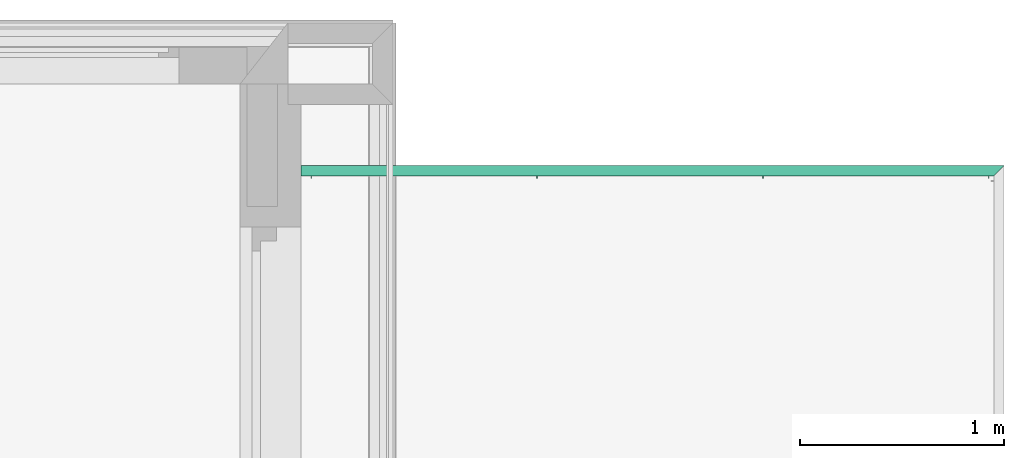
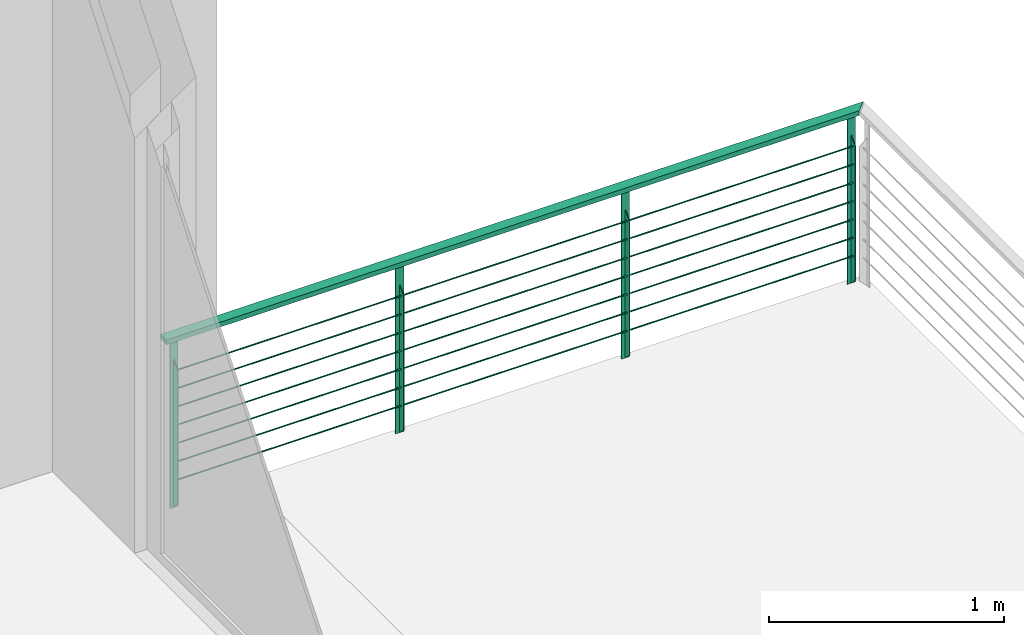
# One storey, part 25 of 26: 1 distribution element.
"""IFC2X3 building model written with IfcOpenShell, lengths in millimetres."""

from ifc_helpers import new_model, entity, si_unit, converted_unit, money_unit, direction, frame, origin_with_axes, place, context, subcontext, project, spatial, faceted_brep, material, type_object, element, save


model = new_model("IFC2X3")

# Units and contexts
model_context = context("Model", 3, precision=1e-05, world=origin_with_axes(), true_north=direction((0.0, 1.0)))
body_context = subcontext(model_context, "Body", "Model", "MODEL_VIEW")
ifc_project = project(units=[si_unit("LENGTHUNIT", "METRE", prefix="MILLI"), si_unit("AREAUNIT", "SQUARE_METRE"), si_unit("VOLUMEUNIT", "CUBIC_METRE"), converted_unit("PLANEANGLEUNIT", "DEGREE", entity("IfcPlaneAngleMeasure", 0.0174532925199), si_unit("PLANEANGLEUNIT", "RADIAN"), dimensions=[0, 0, 0, 0, 0, 0, 0]), si_unit("SOLIDANGLEUNIT", "STERADIAN"), money_unit("USD"), converted_unit("TIMEUNIT", "Year", entity("IfcTimeMeasure", 31556926.0), si_unit("TIMEUNIT", "SECOND"), dimensions=[0, 0, 0, 0, 0, 0, 0]), si_unit("MASSUNIT", "GRAM"), si_unit("THERMODYNAMICTEMPERATUREUNIT", "DEGREE_CELSIUS"), si_unit("LUMINOUSINTENSITYUNIT", "LUMEN")], contexts=[model_context])

# Site, building, storey
site_placement = place(None, origin_with_axes())
site = spatial("IfcSite", under=ifc_project, at=site_placement, Name="Grove Residential", CompositionType="ELEMENT")
building_placement = place(site_placement, origin_with_axes())
building = spatial("IfcBuilding", under=site, at=building_placement, Name="Building", CompositionType="ELEMENT")
storey_placement = place(building_placement, origin_with_axes())
storey = spatial("IfcBuildingStorey", under=building, at=storey_placement, Name="Ground Floor", CompositionType="ELEMENT", Elevation=0.0)

# Distribution element
ifc_material = material(Name="Background")
distribution_element_type = type_object("IfcDistributionElementType", Name="Rail Wired 02 20")
distribution_element_placement = place(storey_placement, frame((13725.0, 17825.0, -50.0), z_axis=(0.0, 0.0, 1.0), x_axis=(1.0, 0.0, 0.0)))
element("IfcDistributionElement", 1, at=distribution_element_placement, inside=storey, type_object=distribution_element_type, material=ifc_material, Name="FU - 001", context=body_context, shape_type="Brep", body=[
    faceted_brep([(25.0, 25.0, 875.0), (25.0, 25.0, 900.0), (25.0, 25.0, 900.0), (25.0, 25.0, 875.0), (-3425.0, 25.0, 875.0), (-3425.0, 25.0, 900.0), (-3425.0, -25.0, 900.0), (-25.0, -25.0, 900.0), (-25.0, -25.0, 875.0), (-3425.0, -25.0, 875.0)], [[[0, 1, 2, 3]], [[4, 5, 1, 0]], [[1, 5, 6, 7, 2]], [[3, 2, 7, 8]], [[0, 3, 8, 9, 4]], [[9, 6, 5, 4]], [[8, 7, 6, 9]]]),
    faceted_brep([(-30.0, -2.0, 0.0), (-30.0, -2.0, 871.0), (-70.0, -2.0, 871.0), (-70.0, -2.0, 0.0), (-30.0, 2.0, 0.0), (-30.0, 2.0, 871.0), (-70.0, 2.0, 871.0), (-70.0, 2.0, 0.0)], [[[0, 1, 2, 3]], [[4, 5, 1, 0]], [[1, 5, 6, 2]], [[3, 2, 6, 7]], [[0, 3, 7, 4]], [[7, 6, 5, 4]]]),
    faceted_brep([(-52.0, -38.0, 36.0), (-48.0, -38.0, 36.0), (-48.0, -38.0, 731.0), (-52.0, -38.0, 731.0), (-52.0, -2.0, 0.0), (-48.0, -2.0, 0.0), (-48.0, -2.0, 767.0), (-52.0, -2.0, 767.0)], [[[0, 1, 2, 3]], [[4, 5, 1, 0]], [[1, 5, 6, 2]], [[3, 2, 6, 7]], [[0, 3, 7, 4]], [[7, 6, 5, 4]]]),
    faceted_brep([(-1138.33333333, -2.0, 0.0), (-1138.33333333, -2.0, 871.0), (-1178.33333333, -2.0, 871.0), (-1178.33333333, -2.0, 0.0), (-1138.33333333, 2.0, 0.0), (-1138.33333333, 2.0, 871.0), (-1178.33333333, 2.0, 871.0), (-1178.33333333, 2.0, 0.0)], [[[0, 1, 2, 3]], [[4, 5, 1, 0]], [[1, 5, 6, 2]], [[3, 2, 6, 7]], [[0, 3, 7, 4]], [[7, 6, 5, 4]]]),
    faceted_brep([(-1160.33333333, -38.0, 36.0), (-1156.33333333, -38.0, 36.0), (-1156.33333333, -38.0, 731.0), (-1160.33333333, -38.0, 731.0), (-1160.33333333, -2.0, 0.0), (-1156.33333333, -2.0, 0.0), (-1156.33333333, -2.0, 767.0), (-1160.33333333, -2.0, 767.0)], [[[0, 1, 2, 3]], [[4, 5, 1, 0]], [[1, 5, 6, 2]], [[3, 2, 6, 7]], [[0, 3, 7, 4]], [[7, 6, 5, 4]]]),
    faceted_brep([(-2246.66666667, -2.0, 0.0), (-2246.66666667, -2.0, 871.0), (-2286.66666667, -2.0, 871.0), (-2286.66666667, -2.0, 0.0), (-2246.66666667, 2.0, 0.0), (-2246.66666667, 2.0, 871.0), (-2286.66666667, 2.0, 871.0), (-2286.66666667, 2.0, 0.0)], [[[0, 1, 2, 3]], [[4, 5, 1, 0]], [[1, 5, 6, 2]], [[3, 2, 6, 7]], [[0, 3, 7, 4]], [[7, 6, 5, 4]]]),
    faceted_brep([(-2268.66666667, -38.0, 36.0), (-2264.66666667, -38.0, 36.0), (-2264.66666667, -38.0, 731.0), (-2268.66666667, -38.0, 731.0), (-2268.66666667, -2.0, 0.0), (-2264.66666667, -2.0, 0.0), (-2264.66666667, -2.0, 767.0), (-2268.66666667, -2.0, 767.0)], [[[0, 1, 2, 3]], [[4, 5, 1, 0]], [[1, 5, 6, 2]], [[3, 2, 6, 7]], [[0, 3, 7, 4]], [[7, 6, 5, 4]]]),
    faceted_brep([(-3355.0, -2.0, 0.0), (-3355.0, -2.0, 871.0), (-3395.0, -2.0, 871.0), (-3395.0, -2.0, 0.0), (-3355.0, 2.0, 0.0), (-3355.0, 2.0, 871.0), (-3395.0, 2.0, 871.0), (-3395.0, 2.0, 0.0)], [[[0, 1, 2, 3]], [[4, 5, 1, 0]], [[1, 5, 6, 2]], [[3, 2, 6, 7]], [[0, 3, 7, 4]], [[7, 6, 5, 4]]]),
    faceted_brep([(-3377.0, -38.0, 36.0), (-3373.0, -38.0, 36.0), (-3373.0, -38.0, 731.0), (-3377.0, -38.0, 731.0), (-3377.0, -2.0, 0.0), (-3373.0, -2.0, 0.0), (-3373.0, -2.0, 767.0), (-3377.0, -2.0, 767.0)], [[[0, 1, 2, 3]], [[4, 5, 1, 0]], [[1, 5, 6, 2]], [[3, 2, 6, 7]], [[0, 3, 7, 4]], [[7, 6, 5, 4]]]),
    faceted_brep([(-20.0, -15.0, 871.0), (-20.0, -15.0, 875.0), (-80.0, -15.0, 875.0), (-80.0, -15.0, 871.0), (-20.0, 15.0, 871.0), (-20.0, 15.0, 875.0), (-80.0, 15.0, 875.0), (-80.0, 15.0, 871.0)], [[[0, 1, 2, 3]], [[4, 5, 1, 0]], [[1, 5, 6, 2]], [[3, 2, 6, 7]], [[0, 3, 7, 4]], [[7, 6, 5, 4]]]),
    faceted_brep([(-1128.33333333, -15.0, 871.0), (-1128.33333333, -15.0, 875.0), (-1188.33333333, -15.0, 875.0), (-1188.33333333, -15.0, 871.0), (-1128.33333333, 15.0, 871.0), (-1128.33333333, 15.0, 875.0), (-1188.33333333, 15.0, 875.0), (-1188.33333333, 15.0, 871.0)], [[[0, 1, 2, 3]], [[4, 5, 1, 0]], [[1, 5, 6, 2]], [[3, 2, 6, 7]], [[0, 3, 7, 4]], [[7, 6, 5, 4]]]),
    faceted_brep([(-2236.66666667, -15.0, 871.0), (-2236.66666667, -15.0, 875.0), (-2296.66666667, -15.0, 875.0), (-2296.66666667, -15.0, 871.0), (-2236.66666667, 15.0, 871.0), (-2236.66666667, 15.0, 875.0), (-2296.66666667, 15.0, 875.0), (-2296.66666667, 15.0, 871.0)], [[[0, 1, 2, 3]], [[4, 5, 1, 0]], [[1, 5, 6, 2]], [[3, 2, 6, 7]], [[0, 3, 7, 4]], [[7, 6, 5, 4]]]),
    faceted_brep([(-3345.0, -15.0, 871.0), (-3345.0, -15.0, 875.0), (-3405.0, -15.0, 875.0), (-3405.0, -15.0, 871.0), (-3345.0, 15.0, 871.0), (-3345.0, 15.0, 875.0), (-3405.0, 15.0, 875.0), (-3405.0, 15.0, 871.0)], [[[0, 1, 2, 3]], [[4, 5, 1, 0]], [[1, 5, 6, 2]], [[3, 2, 6, 7]], [[0, 3, 7, 4]], [[7, 6, 5, 4]]]),
    faceted_brep([(-3355.0, -22.0, 155.0), (-3373.0, -22.0, 155.0), (-3373.0, -22.5, 155.0), (-2268.66666667, -22.5, 155.0), (-2268.66666667, -22.0, 155.0), (-2286.66666667, -22.0, 155.0), (-2286.66666667, -18.0, 155.0), (-2246.66666667, -18.0, 155.0), (-2246.66666667, -22.0, 155.0), (-2264.66666667, -22.0, 155.0), (-2264.66666667, -22.5, 155.0), (-1160.33333333, -22.5, 155.0), (-1160.33333333, -22.0, 155.0), (-1178.33333333, -22.0, 155.0), (-1178.33333333, -18.0, 155.0), (-1138.33333333, -18.0, 155.0), (-1138.33333333, -22.0, 155.0), (-1156.33333333, -22.0, 155.0), (-1156.33333333, -22.5, 155.0), (-52.0, -22.5, 155.0), (-52.0, -22.0, 155.0), (-70.0, -22.0, 155.0), (-70.0, -18.0, 155.0), (-50.0, -18.0, 155.0), (-50.0, -17.5, 155.0), (-3375.0, -17.5, 155.0), (-3375.0, -18.0, 155.0), (-3355.0, -18.0, 155.0), (-3355.0, -22.0, 150.0), (-3373.0, -22.0, 150.0), (-3373.0, -22.5, 150.0), (-2268.66666667, -22.5, 150.0), (-2268.66666667, -22.0, 150.0), (-2286.66666667, -22.0, 150.0), (-2286.66666667, -18.0, 150.0), (-2246.66666667, -18.0, 150.0), (-2246.66666667, -22.0, 150.0), (-2264.66666667, -22.0, 150.0), (-2264.66666667, -22.5, 150.0), (-1160.33333333, -22.5, 150.0), (-1160.33333333, -22.0, 150.0), (-1178.33333333, -22.0, 150.0), (-1178.33333333, -18.0, 150.0), (-1138.33333333, -18.0, 150.0), (-1138.33333333, -22.0, 150.0), (-1156.33333333, -22.0, 150.0), (-1156.33333333, -22.5, 150.0), (-52.0, -22.5, 150.0), (-52.0, -22.0, 150.0), (-70.0, -22.0, 150.0), (-70.0, -18.0, 150.0), (-50.0, -18.0, 150.0), (-50.0, -17.5, 150.0), (-3375.0, -17.5, 150.0), (-3375.0, -18.0, 150.0), (-3355.0, -18.0, 150.0)], [[[0, 1, 2, 3, 4, 5, 6, 7, 8, 9, 10, 11, 12, 13, 14, 15, 16, 17, 18, 19, 20, 21, 22, 23, 24, 25, 26, 27]], [[0, 28, 29, 1]], [[29, 30, 2, 1]], [[3, 2, 30, 31]], [[3, 31, 32, 4]], [[32, 33, 5, 4]], [[5, 33, 34, 6]], [[6, 34, 35, 7]], [[7, 35, 36, 8]], [[9, 8, 36, 37]], [[37, 38, 10, 9]], [[38, 39, 11, 10]], [[11, 39, 40, 12]], [[40, 41, 13, 12]], [[13, 41, 42, 14]], [[14, 42, 43, 15]], [[15, 43, 44, 16]], [[17, 16, 44, 45]], [[45, 46, 18, 17]], [[46, 47, 19, 18]], [[19, 47, 48, 20]], [[48, 49, 21, 20]], [[21, 49, 50, 22]], [[22, 50, 51, 23]], [[51, 52, 24, 23]], [[25, 24, 52, 53]], [[26, 25, 53, 54]], [[54, 55, 27, 26]], [[27, 55, 28, 0]], [[28, 55, 54, 53, 52, 51, 50, 49, 48, 47, 46, 45, 44, 43, 42, 41, 40, 39, 38, 37, 36, 35, 34, 33, 32, 31, 30, 29]]]),
    faceted_brep([(-3355.0, -22.0, 250.0), (-3373.0, -22.0, 250.0), (-3373.0, -22.5, 250.0), (-2268.66666667, -22.5, 250.0), (-2268.66666667, -22.0, 250.0), (-2286.66666667, -22.0, 250.0), (-2286.66666667, -18.0, 250.0), (-2246.66666667, -18.0, 250.0), (-2246.66666667, -22.0, 250.0), (-2264.66666667, -22.0, 250.0), (-2264.66666667, -22.5, 250.0), (-1160.33333333, -22.5, 250.0), (-1160.33333333, -22.0, 250.0), (-1178.33333333, -22.0, 250.0), (-1178.33333333, -18.0, 250.0), (-1138.33333333, -18.0, 250.0), (-1138.33333333, -22.0, 250.0), (-1156.33333333, -22.0, 250.0), (-1156.33333333, -22.5, 250.0), (-52.0, -22.5, 250.0), (-52.0, -22.0, 250.0), (-70.0, -22.0, 250.0), (-70.0, -18.0, 250.0), (-50.0, -18.0, 250.0), (-50.0, -17.5, 250.0), (-3375.0, -17.5, 250.0), (-3375.0, -18.0, 250.0), (-3355.0, -18.0, 250.0), (-3355.0, -22.0, 245.0), (-3373.0, -22.0, 245.0), (-3373.0, -22.5, 245.0), (-2268.66666667, -22.5, 245.0), (-2268.66666667, -22.0, 245.0), (-2286.66666667, -22.0, 245.0), (-2286.66666667, -18.0, 245.0), (-2246.66666667, -18.0, 245.0), (-2246.66666667, -22.0, 245.0), (-2264.66666667, -22.0, 245.0), (-2264.66666667, -22.5, 245.0), (-1160.33333333, -22.5, 245.0), (-1160.33333333, -22.0, 245.0), (-1178.33333333, -22.0, 245.0), (-1178.33333333, -18.0, 245.0), (-1138.33333333, -18.0, 245.0), (-1138.33333333, -22.0, 245.0), (-1156.33333333, -22.0, 245.0), (-1156.33333333, -22.5, 245.0), (-52.0, -22.5, 245.0), (-52.0, -22.0, 245.0), (-70.0, -22.0, 245.0), (-70.0, -18.0, 245.0), (-50.0, -18.0, 245.0), (-50.0, -17.5, 245.0), (-3375.0, -17.5, 245.0), (-3375.0, -18.0, 245.0), (-3355.0, -18.0, 245.0)], [[[0, 1, 2, 3, 4, 5, 6, 7, 8, 9, 10, 11, 12, 13, 14, 15, 16, 17, 18, 19, 20, 21, 22, 23, 24, 25, 26, 27]], [[0, 28, 29, 1]], [[29, 30, 2, 1]], [[3, 2, 30, 31]], [[3, 31, 32, 4]], [[32, 33, 5, 4]], [[5, 33, 34, 6]], [[6, 34, 35, 7]], [[7, 35, 36, 8]], [[9, 8, 36, 37]], [[37, 38, 10, 9]], [[38, 39, 11, 10]], [[11, 39, 40, 12]], [[40, 41, 13, 12]], [[13, 41, 42, 14]], [[14, 42, 43, 15]], [[15, 43, 44, 16]], [[17, 16, 44, 45]], [[45, 46, 18, 17]], [[46, 47, 19, 18]], [[19, 47, 48, 20]], [[48, 49, 21, 20]], [[21, 49, 50, 22]], [[22, 50, 51, 23]], [[51, 52, 24, 23]], [[25, 24, 52, 53]], [[26, 25, 53, 54]], [[54, 55, 27, 26]], [[27, 55, 28, 0]], [[28, 55, 54, 53, 52, 51, 50, 49, 48, 47, 46, 45, 44, 43, 42, 41, 40, 39, 38, 37, 36, 35, 34, 33, 32, 31, 30, 29]]]),
    faceted_brep([(-3355.0, -22.0, 345.0), (-3373.0, -22.0, 345.0), (-3373.0, -22.5, 345.0), (-2268.66666667, -22.5, 345.0), (-2268.66666667, -22.0, 345.0), (-2286.66666667, -22.0, 345.0), (-2286.66666667, -18.0, 345.0), (-2246.66666667, -18.0, 345.0), (-2246.66666667, -22.0, 345.0), (-2264.66666667, -22.0, 345.0), (-2264.66666667, -22.5, 345.0), (-1160.33333333, -22.5, 345.0), (-1160.33333333, -22.0, 345.0), (-1178.33333333, -22.0, 345.0), (-1178.33333333, -18.0, 345.0), (-1138.33333333, -18.0, 345.0), (-1138.33333333, -22.0, 345.0), (-1156.33333333, -22.0, 345.0), (-1156.33333333, -22.5, 345.0), (-52.0, -22.5, 345.0), (-52.0, -22.0, 345.0), (-70.0, -22.0, 345.0), (-70.0, -18.0, 345.0), (-50.0, -18.0, 345.0), (-50.0, -17.5, 345.0), (-3375.0, -17.5, 345.0), (-3375.0, -18.0, 345.0), (-3355.0, -18.0, 345.0), (-3355.0, -22.0, 340.0), (-3373.0, -22.0, 340.0), (-3373.0, -22.5, 340.0), (-2268.66666667, -22.5, 340.0), (-2268.66666667, -22.0, 340.0), (-2286.66666667, -22.0, 340.0), (-2286.66666667, -18.0, 340.0), (-2246.66666667, -18.0, 340.0), (-2246.66666667, -22.0, 340.0), (-2264.66666667, -22.0, 340.0), (-2264.66666667, -22.5, 340.0), (-1160.33333333, -22.5, 340.0), (-1160.33333333, -22.0, 340.0), (-1178.33333333, -22.0, 340.0), (-1178.33333333, -18.0, 340.0), (-1138.33333333, -18.0, 340.0), (-1138.33333333, -22.0, 340.0), (-1156.33333333, -22.0, 340.0), (-1156.33333333, -22.5, 340.0), (-52.0, -22.5, 340.0), (-52.0, -22.0, 340.0), (-70.0, -22.0, 340.0), (-70.0, -18.0, 340.0), (-50.0, -18.0, 340.0), (-50.0, -17.5, 340.0), (-3375.0, -17.5, 340.0), (-3375.0, -18.0, 340.0), (-3355.0, -18.0, 340.0)], [[[0, 1, 2, 3, 4, 5, 6, 7, 8, 9, 10, 11, 12, 13, 14, 15, 16, 17, 18, 19, 20, 21, 22, 23, 24, 25, 26, 27]], [[0, 28, 29, 1]], [[29, 30, 2, 1]], [[3, 2, 30, 31]], [[3, 31, 32, 4]], [[32, 33, 5, 4]], [[5, 33, 34, 6]], [[6, 34, 35, 7]], [[7, 35, 36, 8]], [[9, 8, 36, 37]], [[37, 38, 10, 9]], [[38, 39, 11, 10]], [[11, 39, 40, 12]], [[40, 41, 13, 12]], [[13, 41, 42, 14]], [[14, 42, 43, 15]], [[15, 43, 44, 16]], [[17, 16, 44, 45]], [[45, 46, 18, 17]], [[46, 47, 19, 18]], [[19, 47, 48, 20]], [[48, 49, 21, 20]], [[21, 49, 50, 22]], [[22, 50, 51, 23]], [[51, 52, 24, 23]], [[25, 24, 52, 53]], [[26, 25, 53, 54]], [[54, 55, 27, 26]], [[27, 55, 28, 0]], [[28, 55, 54, 53, 52, 51, 50, 49, 48, 47, 46, 45, 44, 43, 42, 41, 40, 39, 38, 37, 36, 35, 34, 33, 32, 31, 30, 29]]]),
    faceted_brep([(-3355.0, -22.0, 440.0), (-3373.0, -22.0, 440.0), (-3373.0, -22.5, 440.0), (-2268.66666667, -22.5, 440.0), (-2268.66666667, -22.0, 440.0), (-2286.66666667, -22.0, 440.0), (-2286.66666667, -18.0, 440.0), (-2246.66666667, -18.0, 440.0), (-2246.66666667, -22.0, 440.0), (-2264.66666667, -22.0, 440.0), (-2264.66666667, -22.5, 440.0), (-1160.33333333, -22.5, 440.0), (-1160.33333333, -22.0, 440.0), (-1178.33333333, -22.0, 440.0), (-1178.33333333, -18.0, 440.0), (-1138.33333333, -18.0, 440.0), (-1138.33333333, -22.0, 440.0), (-1156.33333333, -22.0, 440.0), (-1156.33333333, -22.5, 440.0), (-52.0, -22.5, 440.0), (-52.0, -22.0, 440.0), (-70.0, -22.0, 440.0), (-70.0, -18.0, 440.0), (-50.0, -18.0, 440.0), (-50.0, -17.5, 440.0), (-3375.0, -17.5, 440.0), (-3375.0, -18.0, 440.0), (-3355.0, -18.0, 440.0), (-3355.0, -22.0, 435.0), (-3373.0, -22.0, 435.0), (-3373.0, -22.5, 435.0), (-2268.66666667, -22.5, 435.0), (-2268.66666667, -22.0, 435.0), (-2286.66666667, -22.0, 435.0), (-2286.66666667, -18.0, 435.0), (-2246.66666667, -18.0, 435.0), (-2246.66666667, -22.0, 435.0), (-2264.66666667, -22.0, 435.0), (-2264.66666667, -22.5, 435.0), (-1160.33333333, -22.5, 435.0), (-1160.33333333, -22.0, 435.0), (-1178.33333333, -22.0, 435.0), (-1178.33333333, -18.0, 435.0), (-1138.33333333, -18.0, 435.0), (-1138.33333333, -22.0, 435.0), (-1156.33333333, -22.0, 435.0), (-1156.33333333, -22.5, 435.0), (-52.0, -22.5, 435.0), (-52.0, -22.0, 435.0), (-70.0, -22.0, 435.0), (-70.0, -18.0, 435.0), (-50.0, -18.0, 435.0), (-50.0, -17.5, 435.0), (-3375.0, -17.5, 435.0), (-3375.0, -18.0, 435.0), (-3355.0, -18.0, 435.0)], [[[0, 1, 2, 3, 4, 5, 6, 7, 8, 9, 10, 11, 12, 13, 14, 15, 16, 17, 18, 19, 20, 21, 22, 23, 24, 25, 26, 27]], [[0, 28, 29, 1]], [[29, 30, 2, 1]], [[3, 2, 30, 31]], [[3, 31, 32, 4]], [[32, 33, 5, 4]], [[5, 33, 34, 6]], [[6, 34, 35, 7]], [[7, 35, 36, 8]], [[9, 8, 36, 37]], [[37, 38, 10, 9]], [[38, 39, 11, 10]], [[11, 39, 40, 12]], [[40, 41, 13, 12]], [[13, 41, 42, 14]], [[14, 42, 43, 15]], [[15, 43, 44, 16]], [[17, 16, 44, 45]], [[45, 46, 18, 17]], [[46, 47, 19, 18]], [[19, 47, 48, 20]], [[48, 49, 21, 20]], [[21, 49, 50, 22]], [[22, 50, 51, 23]], [[51, 52, 24, 23]], [[25, 24, 52, 53]], [[26, 25, 53, 54]], [[54, 55, 27, 26]], [[27, 55, 28, 0]], [[28, 55, 54, 53, 52, 51, 50, 49, 48, 47, 46, 45, 44, 43, 42, 41, 40, 39, 38, 37, 36, 35, 34, 33, 32, 31, 30, 29]]]),
    faceted_brep([(-3355.0, -22.0, 535.0), (-3373.0, -22.0, 535.0), (-3373.0, -22.5, 535.0), (-2268.66666667, -22.5, 535.0), (-2268.66666667, -22.0, 535.0), (-2286.66666667, -22.0, 535.0), (-2286.66666667, -18.0, 535.0), (-2246.66666667, -18.0, 535.0), (-2246.66666667, -22.0, 535.0), (-2264.66666667, -22.0, 535.0), (-2264.66666667, -22.5, 535.0), (-1160.33333333, -22.5, 535.0), (-1160.33333333, -22.0, 535.0), (-1178.33333333, -22.0, 535.0), (-1178.33333333, -18.0, 535.0), (-1138.33333333, -18.0, 535.0), (-1138.33333333, -22.0, 535.0), (-1156.33333333, -22.0, 535.0), (-1156.33333333, -22.5, 535.0), (-52.0, -22.5, 535.0), (-52.0, -22.0, 535.0), (-70.0, -22.0, 535.0), (-70.0, -18.0, 535.0), (-50.0, -18.0, 535.0), (-50.0, -17.5, 535.0), (-3375.0, -17.5, 535.0), (-3375.0, -18.0, 535.0), (-3355.0, -18.0, 535.0), (-3355.0, -22.0, 530.0), (-3373.0, -22.0, 530.0), (-3373.0, -22.5, 530.0), (-2268.66666667, -22.5, 530.0), (-2268.66666667, -22.0, 530.0), (-2286.66666667, -22.0, 530.0), (-2286.66666667, -18.0, 530.0), (-2246.66666667, -18.0, 530.0), (-2246.66666667, -22.0, 530.0), (-2264.66666667, -22.0, 530.0), (-2264.66666667, -22.5, 530.0), (-1160.33333333, -22.5, 530.0), (-1160.33333333, -22.0, 530.0), (-1178.33333333, -22.0, 530.0), (-1178.33333333, -18.0, 530.0), (-1138.33333333, -18.0, 530.0), (-1138.33333333, -22.0, 530.0), (-1156.33333333, -22.0, 530.0), (-1156.33333333, -22.5, 530.0), (-52.0, -22.5, 530.0), (-52.0, -22.0, 530.0), (-70.0, -22.0, 530.0), (-70.0, -18.0, 530.0), (-50.0, -18.0, 530.0), (-50.0, -17.5, 530.0), (-3375.0, -17.5, 530.0), (-3375.0, -18.0, 530.0), (-3355.0, -18.0, 530.0)], [[[0, 1, 2, 3, 4, 5, 6, 7, 8, 9, 10, 11, 12, 13, 14, 15, 16, 17, 18, 19, 20, 21, 22, 23, 24, 25, 26, 27]], [[0, 28, 29, 1]], [[29, 30, 2, 1]], [[3, 2, 30, 31]], [[3, 31, 32, 4]], [[32, 33, 5, 4]], [[5, 33, 34, 6]], [[6, 34, 35, 7]], [[7, 35, 36, 8]], [[9, 8, 36, 37]], [[37, 38, 10, 9]], [[38, 39, 11, 10]], [[11, 39, 40, 12]], [[40, 41, 13, 12]], [[13, 41, 42, 14]], [[14, 42, 43, 15]], [[15, 43, 44, 16]], [[17, 16, 44, 45]], [[45, 46, 18, 17]], [[46, 47, 19, 18]], [[19, 47, 48, 20]], [[48, 49, 21, 20]], [[21, 49, 50, 22]], [[22, 50, 51, 23]], [[51, 52, 24, 23]], [[25, 24, 52, 53]], [[26, 25, 53, 54]], [[54, 55, 27, 26]], [[27, 55, 28, 0]], [[28, 55, 54, 53, 52, 51, 50, 49, 48, 47, 46, 45, 44, 43, 42, 41, 40, 39, 38, 37, 36, 35, 34, 33, 32, 31, 30, 29]]]),
    faceted_brep([(-3355.0, -22.0, 630.0), (-3373.0, -22.0, 630.0), (-3373.0, -22.5, 630.0), (-2268.66666667, -22.5, 630.0), (-2268.66666667, -22.0, 630.0), (-2286.66666667, -22.0, 630.0), (-2286.66666667, -18.0, 630.0), (-2246.66666667, -18.0, 630.0), (-2246.66666667, -22.0, 630.0), (-2264.66666667, -22.0, 630.0), (-2264.66666667, -22.5, 630.0), (-1160.33333333, -22.5, 630.0), (-1160.33333333, -22.0, 630.0), (-1178.33333333, -22.0, 630.0), (-1178.33333333, -18.0, 630.0), (-1138.33333333, -18.0, 630.0), (-1138.33333333, -22.0, 630.0), (-1156.33333333, -22.0, 630.0), (-1156.33333333, -22.5, 630.0), (-52.0, -22.5, 630.0), (-52.0, -22.0, 630.0), (-70.0, -22.0, 630.0), (-70.0, -18.0, 630.0), (-50.0, -18.0, 630.0), (-50.0, -17.5, 630.0), (-3375.0, -17.5, 630.0), (-3375.0, -18.0, 630.0), (-3355.0, -18.0, 630.0), (-3355.0, -22.0, 625.0), (-3373.0, -22.0, 625.0), (-3373.0, -22.5, 625.0), (-2268.66666667, -22.5, 625.0), (-2268.66666667, -22.0, 625.0), (-2286.66666667, -22.0, 625.0), (-2286.66666667, -18.0, 625.0), (-2246.66666667, -18.0, 625.0), (-2246.66666667, -22.0, 625.0), (-2264.66666667, -22.0, 625.0), (-2264.66666667, -22.5, 625.0), (-1160.33333333, -22.5, 625.0), (-1160.33333333, -22.0, 625.0), (-1178.33333333, -22.0, 625.0), (-1178.33333333, -18.0, 625.0), (-1138.33333333, -18.0, 625.0), (-1138.33333333, -22.0, 625.0), (-1156.33333333, -22.0, 625.0), (-1156.33333333, -22.5, 625.0), (-52.0, -22.5, 625.0), (-52.0, -22.0, 625.0), (-70.0, -22.0, 625.0), (-70.0, -18.0, 625.0), (-50.0, -18.0, 625.0), (-50.0, -17.5, 625.0), (-3375.0, -17.5, 625.0), (-3375.0, -18.0, 625.0), (-3355.0, -18.0, 625.0)], [[[0, 1, 2, 3, 4, 5, 6, 7, 8, 9, 10, 11, 12, 13, 14, 15, 16, 17, 18, 19, 20, 21, 22, 23, 24, 25, 26, 27]], [[0, 28, 29, 1]], [[29, 30, 2, 1]], [[3, 2, 30, 31]], [[3, 31, 32, 4]], [[32, 33, 5, 4]], [[5, 33, 34, 6]], [[6, 34, 35, 7]], [[7, 35, 36, 8]], [[9, 8, 36, 37]], [[37, 38, 10, 9]], [[38, 39, 11, 10]], [[11, 39, 40, 12]], [[40, 41, 13, 12]], [[13, 41, 42, 14]], [[14, 42, 43, 15]], [[15, 43, 44, 16]], [[17, 16, 44, 45]], [[45, 46, 18, 17]], [[46, 47, 19, 18]], [[19, 47, 48, 20]], [[48, 49, 21, 20]], [[21, 49, 50, 22]], [[22, 50, 51, 23]], [[51, 52, 24, 23]], [[25, 24, 52, 53]], [[26, 25, 53, 54]], [[54, 55, 27, 26]], [[27, 55, 28, 0]], [[28, 55, 54, 53, 52, 51, 50, 49, 48, 47, 46, 45, 44, 43, 42, 41, 40, 39, 38, 37, 36, 35, 34, 33, 32, 31, 30, 29]]]),
    faceted_brep([(-3355.0, -22.0, 725.0), (-3373.0, -22.0, 725.0), (-3373.0, -22.5, 725.0), (-2268.66666667, -22.5, 725.0), (-2268.66666667, -22.0, 725.0), (-2286.66666667, -22.0, 725.0), (-2286.66666667, -18.0, 725.0), (-2246.66666667, -18.0, 725.0), (-2246.66666667, -22.0, 725.0), (-2264.66666667, -22.0, 725.0), (-2264.66666667, -22.5, 725.0), (-1160.33333333, -22.5, 725.0), (-1160.33333333, -22.0, 725.0), (-1178.33333333, -22.0, 725.0), (-1178.33333333, -18.0, 725.0), (-1138.33333333, -18.0, 725.0), (-1138.33333333, -22.0, 725.0), (-1156.33333333, -22.0, 725.0), (-1156.33333333, -22.5, 725.0), (-52.0, -22.5, 725.0), (-52.0, -22.0, 725.0), (-70.0, -22.0, 725.0), (-70.0, -18.0, 725.0), (-50.0, -18.0, 725.0), (-50.0, -17.5, 725.0), (-3375.0, -17.5, 725.0), (-3375.0, -18.0, 725.0), (-3355.0, -18.0, 725.0), (-3355.0, -22.0, 720.0), (-3373.0, -22.0, 720.0), (-3373.0, -22.5, 720.0), (-2268.66666667, -22.5, 720.0), (-2268.66666667, -22.0, 720.0), (-2286.66666667, -22.0, 720.0), (-2286.66666667, -18.0, 720.0), (-2246.66666667, -18.0, 720.0), (-2246.66666667, -22.0, 720.0), (-2264.66666667, -22.0, 720.0), (-2264.66666667, -22.5, 720.0), (-1160.33333333, -22.5, 720.0), (-1160.33333333, -22.0, 720.0), (-1178.33333333, -22.0, 720.0), (-1178.33333333, -18.0, 720.0), (-1138.33333333, -18.0, 720.0), (-1138.33333333, -22.0, 720.0), (-1156.33333333, -22.0, 720.0), (-1156.33333333, -22.5, 720.0), (-52.0, -22.5, 720.0), (-52.0, -22.0, 720.0), (-70.0, -22.0, 720.0), (-70.0, -18.0, 720.0), (-50.0, -18.0, 720.0), (-50.0, -17.5, 720.0), (-3375.0, -17.5, 720.0), (-3375.0, -18.0, 720.0), (-3355.0, -18.0, 720.0)], [[[0, 1, 2, 3, 4, 5, 6, 7, 8, 9, 10, 11, 12, 13, 14, 15, 16, 17, 18, 19, 20, 21, 22, 23, 24, 25, 26, 27]], [[0, 28, 29, 1]], [[29, 30, 2, 1]], [[3, 2, 30, 31]], [[3, 31, 32, 4]], [[32, 33, 5, 4]], [[5, 33, 34, 6]], [[6, 34, 35, 7]], [[7, 35, 36, 8]], [[9, 8, 36, 37]], [[37, 38, 10, 9]], [[38, 39, 11, 10]], [[11, 39, 40, 12]], [[40, 41, 13, 12]], [[13, 41, 42, 14]], [[14, 42, 43, 15]], [[15, 43, 44, 16]], [[17, 16, 44, 45]], [[45, 46, 18, 17]], [[46, 47, 19, 18]], [[19, 47, 48, 20]], [[48, 49, 21, 20]], [[21, 49, 50, 22]], [[22, 50, 51, 23]], [[51, 52, 24, 23]], [[25, 24, 52, 53]], [[26, 25, 53, 54]], [[54, 55, 27, 26]], [[27, 55, 28, 0]], [[28, 55, 54, 53, 52, 51, 50, 49, 48, 47, 46, 45, 44, 43, 42, 41, 40, 39, 38, 37, 36, 35, 34, 33, 32, 31, 30, 29]]]),
])

save(model, "model.ifc")
